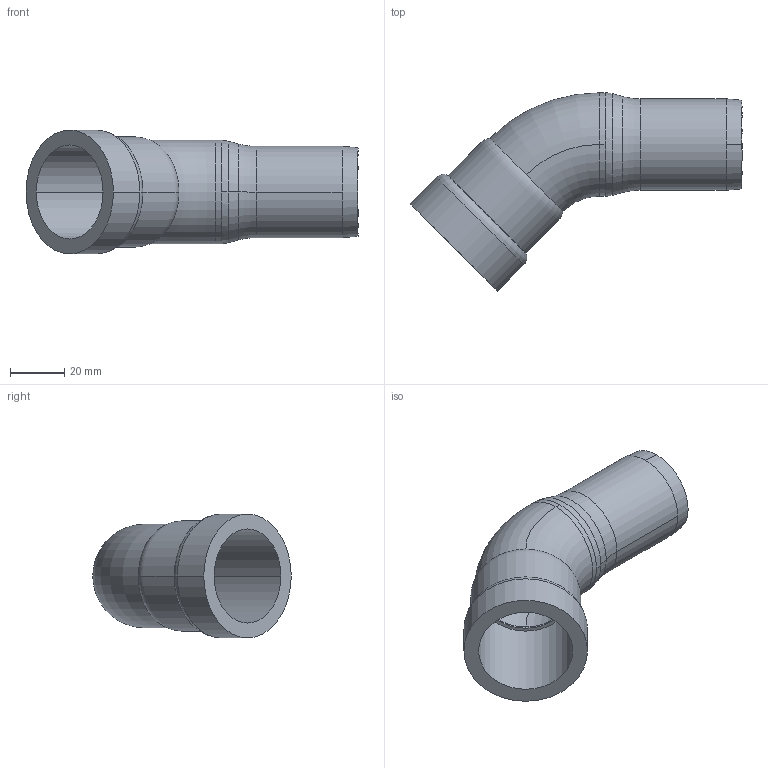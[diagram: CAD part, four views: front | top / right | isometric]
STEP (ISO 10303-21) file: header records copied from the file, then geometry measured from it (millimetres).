
FILE_DESCRIPTION(('Creo Elements/Direct Modeling STEP Export'),'2;1');
FILE_NAME('C9412_1.stp','2020-06-25T13:48:34',(''),(''),'PTC Creo Elements/Direct Modeling STEP processor for AP214 (Solid Model)','PTC Creo Elements/Direct Modeling 19.0C 15-Aug-2015 (C) Parametric Technology GmbH','');
FILE_SCHEMA(('AUTOMOTIVE_DESIGN { 1 0 10303 214 1 1 1 1 }'));
Length unit declared in the file: millimetre
Products named in the file (2): 9412_1
Assembly tree (1 placements, depth 2):
  9412_1
    9412_1
Bounding box: 121.92 x 72.87 x 45.4 mm (x, y, z)
Volume: 44599.4 mm3; surface area: 27160.9 mm2
Topology: 1 solids, 1 shells, 44 faces, 98 edges, 58 vertices
Faces by surface type: cylinder 16, torus 16, cone 8, plane 4
Entity records: 1119 total; most frequent: DIRECTION 196, ORIENTED_EDGE 196, CARTESIAN_POINT 168, EDGE_CURVE 98, AXIS2_PLACEMENT_3D 86, VERTEX_POINT 58, EDGE_LOOP 48, FACE_OUTER_BOUND 44
